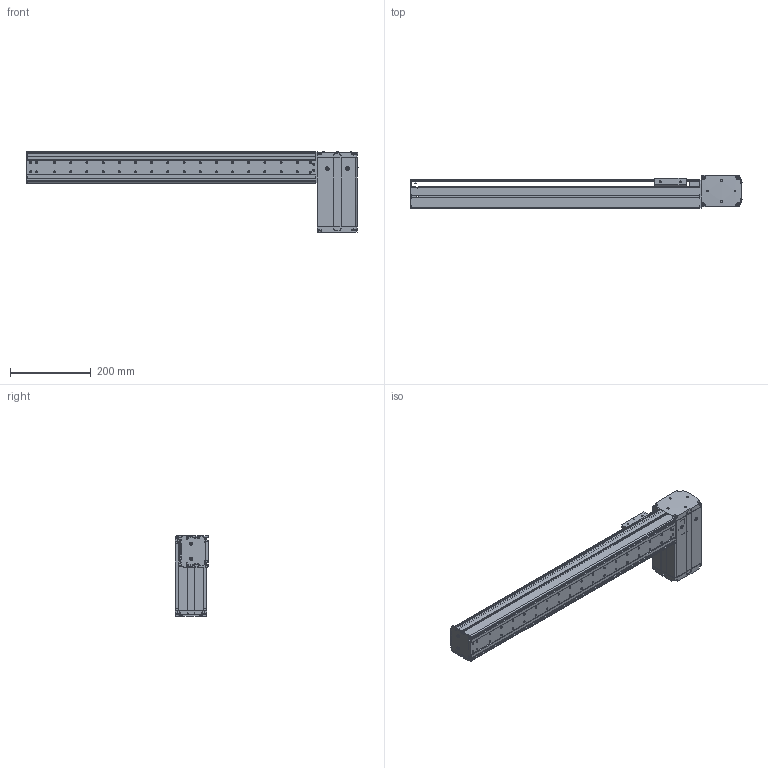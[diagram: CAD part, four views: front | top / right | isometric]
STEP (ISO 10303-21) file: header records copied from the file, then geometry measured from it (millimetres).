
FILE_DESCRIPTION((''),'2;1');
FILE_NAME('BE10_-BL-S_N-55_IGS_PRT','2017-06-18T',(' '),(''),'PRO/ENGINEER BY PARAMETRIC TECHNOLOGY CORPORATION, 2015030','PRO/ENGINEER BY PARAMETRIC TECHNOLOGY CORPORATION, 2015030','');
FILE_SCHEMA(('CONFIG_CONTROL_DESIGN'));
Products named in the file (1): BE10_-BL-S_N-55_IGS_PRT
Bounding box: 820.8 x 82.5 x 200.22 mm (x, y, z)
Volume: 1086539.3 mm3; surface area: 778337.3 mm2
Topology: 3 solids, 118 shells, 1978 faces, 5399 edges, 3541 vertices
Faces by surface type: plane 977, cylinder 838, cone 103, sphere 30, torus 27, bspline 3
Entity records: 64164 total; most frequent: CARTESIAN_POINT 13031, DIRECTION 10836, ORIENTED_EDGE 10298, EDGE_CURVE 5345, AXIS2_PLACEMENT_3D 3839, VERTEX_POINT 3541, VECTOR 3158, LINE 3158
